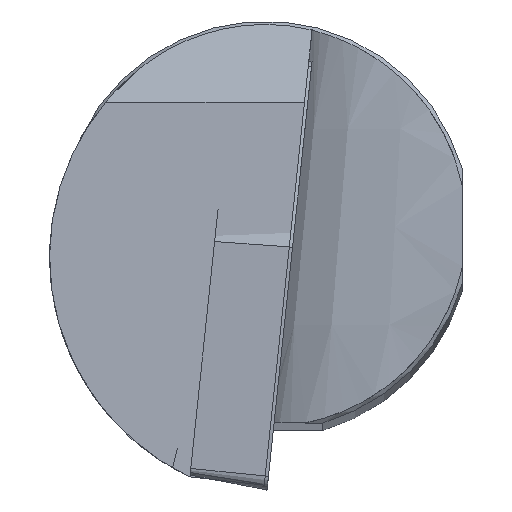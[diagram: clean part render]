
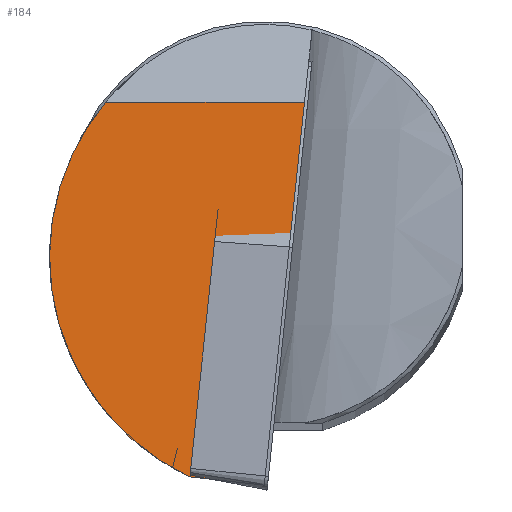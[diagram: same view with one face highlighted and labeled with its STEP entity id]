
A CAD part, top view. The second image highlights one B-rep face of the part: STEP entity #184.
In plain terms, the highlighted planar face has unit normal (0, 0.052, 0.999).
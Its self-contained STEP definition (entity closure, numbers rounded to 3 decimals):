
#99=ELLIPSE('',#689,14.792,14.772);
#184=ADVANCED_FACE('',(#228),#204,.F.);
#204=PLANE('',#690);
#228=FACE_OUTER_BOUND('',#264,.T.);
#264=EDGE_LOOP('',(#372,#373,#374,#375));
#372=ORIENTED_EDGE('',*,*,#555,.T.);
#373=ORIENTED_EDGE('',*,*,#556,.F.);
#374=ORIENTED_EDGE('',*,*,#557,.F.);
#375=ORIENTED_EDGE('',*,*,#558,.F.);
#484=VERTEX_POINT('',#1055);
#485=VERTEX_POINT('',#1056);
#486=VERTEX_POINT('',#1058);
#487=VERTEX_POINT('',#1060);
#555=EDGE_CURVE('',#484,#485,#600,.T.);
#556=EDGE_CURVE('',#486,#485,#601,.T.);
#557=EDGE_CURVE('',#487,#486,#602,.T.);
#558=EDGE_CURVE('',#484,#487,#99,.T.);
#600=LINE('',#1054,#638);
#601=LINE('',#1057,#639);
#602=LINE('',#1059,#640);
#638=VECTOR('',#820,1.);
#639=VECTOR('',#821,1.);
#640=VECTOR('',#822,1.);
#689=AXIS2_PLACEMENT_3D('',#1061,#823,#824);
#690=AXIS2_PLACEMENT_3D('',#1062,#825,#826);
#820=DIRECTION('',(0.994,-0.112,0.006));
#821=DIRECTION('',(-0.104,-0.993,0.052));
#822=DIRECTION('',(1.,0.,0.));
#823=DIRECTION('',(0.,-0.052,-0.999));
#824=DIRECTION('',(0.,-0.999,0.052));
#825=DIRECTION('',(0.,-0.052,-0.999));
#826=DIRECTION('',(0.,0.999,-0.052));
#1054=CARTESIAN_POINT('',(9.729,-16.963,0.07));
#1055=CARTESIAN_POINT('',(-4.609,-15.347,-0.015));
#1056=CARTESIAN_POINT('',(-0.078,-15.858,0.012));
#1057=CARTESIAN_POINT('',(3.626,19.381,-1.835));
#1058=CARTESIAN_POINT('',(2.377,7.5,-1.212));
#1059=CARTESIAN_POINT('',(-16.3,7.5,-1.212));
#1060=CARTESIAN_POINT('',(-9.753,7.5,-1.212));
#1061=CARTESIAN_POINT('',(1.604,-1.946,-0.717));
#1062=CARTESIAN_POINT('',(-16.3,-15.626,0.));
